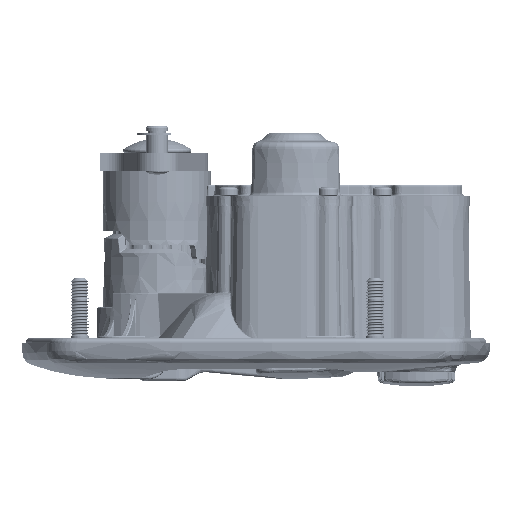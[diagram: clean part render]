
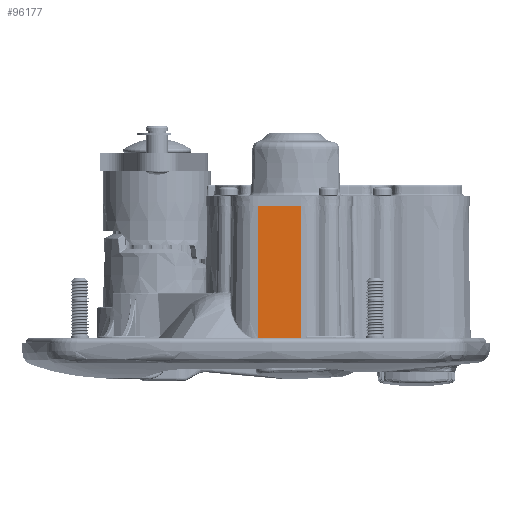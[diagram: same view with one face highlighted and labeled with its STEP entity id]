
A CAD part, left-side view. The second image highlights one B-rep face of the part: STEP entity #96177.
In plain terms, the highlighted planar face has unit normal (-1, 0, 0.018).
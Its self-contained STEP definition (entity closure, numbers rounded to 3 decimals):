
#61435 = VERTEX_POINT ( 'NONE', #94460 ) ;
#61473 = VERTEX_POINT ( 'NONE', #94532 ) ;
#61666 = VERTEX_POINT ( 'NONE', #94884 ) ;
#61680 = VERTEX_POINT ( 'NONE', #94910 ) ;
#88894 = EDGE_CURVE ( 'NONE', #61666, #61435, #126964, .T. ) ;
#88902 = EDGE_CURVE ( 'NONE', #61666, #61473, #107544, .T. ) ;
#88905 = EDGE_CURVE ( 'NONE', #61473, #61680, #126980, .T. ) ;
#88909 = EDGE_CURVE ( 'NONE', #61435, #61680, #126988, .T. ) ;
#94460 = CARTESIAN_POINT ( 'NONE',  ( -45., -28., 38. ) ) ;
#94532 = CARTESIAN_POINT ( 'NONE',  ( -45.685, -40., -1.264 ) ) ;
#94884 = CARTESIAN_POINT ( 'NONE',  ( -45.646, -28., 0.976 ) ) ;
#94910 = CARTESIAN_POINT ( 'NONE',  ( -45., -40., 38. ) ) ;
#96177 = ADVANCED_FACE ( 'NONE', ( #169912 ), #172801, .T. ) ;
#107544 = B_SPLINE_CURVE_WITH_KNOTS ( 'NONE', 3,
 ( #142570, #142604, #142606, #142608 ),
 .UNSPECIFIED., .F., .F.,
 ( 4, 4 ),
 ( 0., 0.012 ),
 .UNSPECIFIED. ) ;
#114261 = AXIS2_PLACEMENT_3D ( 'NONE', #172799, #172805, #172807 ) ;
#125416 = ORIENTED_EDGE ( 'NONE', *, *, #88894, .F. ) ;
#125419 = ORIENTED_EDGE ( 'NONE', *, *, #88902, .T. ) ;
#125422 = ORIENTED_EDGE ( 'NONE', *, *, #88905, .T. ) ;
#125425 = ORIENTED_EDGE ( 'NONE', *, *, #88909, .F. ) ;
#126964 = LINE ( 'NONE', #142576, #126966 ) ;
#126966 = VECTOR ( 'NONE', #142578, 1000. ) ;
#126980 = LINE ( 'NONE', #142620, #126982 ) ;
#126982 = VECTOR ( 'NONE', #142622, 1000. ) ;
#126988 = LINE ( 'NONE', #142634, #126990 ) ;
#126990 = VECTOR ( 'NONE', #142636, 1000. ) ;
#129511 = EDGE_LOOP ( 'NONE', ( #125416, #125419, #125422, #125425 ) ) ;
#142570 = CARTESIAN_POINT ( 'NONE',  ( -45.646, -28., 0.976 ) ) ;
#142576 = CARTESIAN_POINT ( 'NONE',  ( -45., -28., 38. ) ) ;
#142578 = DIRECTION ( 'NONE',  ( 0.017, 0., 1. ) ) ;
#142604 = CARTESIAN_POINT ( 'NONE',  ( -45.657, -32.028, 0.38 ) ) ;
#142606 = CARTESIAN_POINT ( 'NONE',  ( -45.67, -36.027, -0.371 ) ) ;
#142608 = CARTESIAN_POINT ( 'NONE',  ( -45.685, -40., -1.264 ) ) ;
#142620 = CARTESIAN_POINT ( 'NONE',  ( -45., -40., 38. ) ) ;
#142622 = DIRECTION ( 'NONE',  ( 0.017, 0., 1. ) ) ;
#142634 = CARTESIAN_POINT ( 'NONE',  ( -45., -40., 38. ) ) ;
#142636 = DIRECTION ( 'NONE',  ( 0., -1., 0. ) ) ;
#169912 = FACE_OUTER_BOUND ( 'NONE', #129511, .T. ) ;
#172799 = CARTESIAN_POINT ( 'NONE',  ( -45., -40., 38. ) ) ;
#172801 = PLANE ( 'NONE',  #114261 ) ;
#172805 = DIRECTION ( 'NONE',  ( -1., 0., 0.017 ) ) ;
#172807 = DIRECTION ( 'NONE',  ( 0.017, 0., 1. ) ) ;
